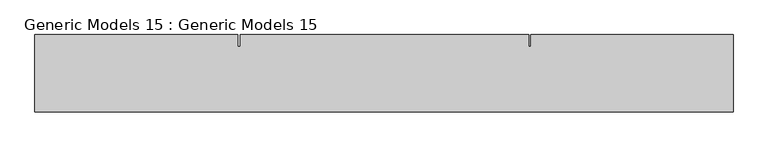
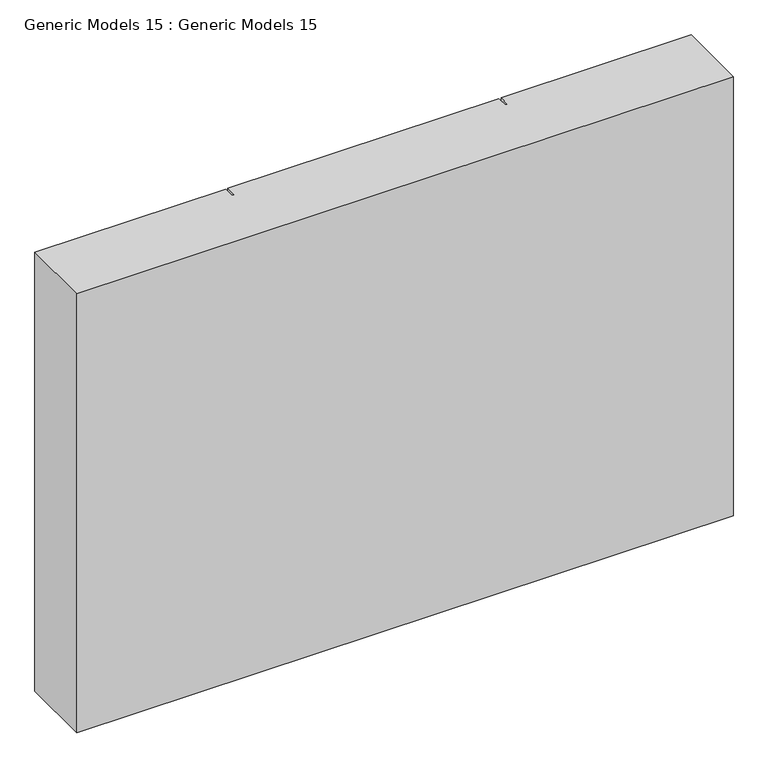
"""IFC4 building model written with IfcOpenShell, lengths in millimetres: proxy geometry, Generic Models 15 : Generic Models 15."""

from ifc_helpers import new_model, si_unit, frame, origin, place, context, project, spatial, polyline, outline, extrude, source, transform, mapped, element, save


def generic_models_15_generic_models_15_fff12dbb(model_context):
    return source(origin(), model_context, "Body", "SweptSolid", [
        extrude(outline(polyline([(90357.7209336, 19195.1617865), (89157.2602923, 19195.1617865), (89157.2602923, 19328.0121652), (89506.0849389, 19328.0121652), (89506.0849389, 19308.0121652), (89510.0849389, 19308.0121652), (89510.0849389, 19328.0121652), (90006.0849389, 19328.0121652), (90006.0849389, 19308.0121652), (90010.0849389, 19308.0121652), (90010.0849389, 19328.0121652), (90357.7209336, 19328.0121652), (90357.7209336, 19195.1617865)])), frame((0.0, 0.0, 1157.9521157), z_axis=(0.0, 0.0, 1.0), x_axis=(1.0, 0.0, 0.0)), (0.0, 0.0, 1.0), 849.1358302),
    ])


if __name__ == "__main__":
    model = new_model("IFC4")
    model_context = context("Model", 3, world=origin())
    ifc_project = project(units=[si_unit("LENGTHUNIT", "METRE", prefix="MILLI")], contexts=[model_context])
    site = spatial("IfcSite", under=ifc_project)
    building = spatial("IfcBuilding", under=site)
    placement = place(None, origin())
    generic_models_15_generic_models_15_shape = generic_models_15_generic_models_15_fff12dbb(model_context)
    element("IfcBuildingElementProxy", 1, Name="Generic Models 15 : Generic Models 15", ObjectType="Generic Models 15 : Generic Models 15", at=placement, inside=building, context=model_context, shape_type="MappedRepresentation", body=[
        mapped(generic_models_15_generic_models_15_shape, transform((0.0, 0.0, 0.0), x_axis=(1.0, 0.0, 0.0), y_axis=(0.0, 1.0, 0.0), z_axis=(0.0, 0.0, 1.0))),
    ])
    save(model, "model.ifc")
